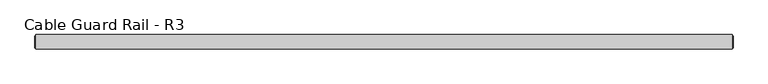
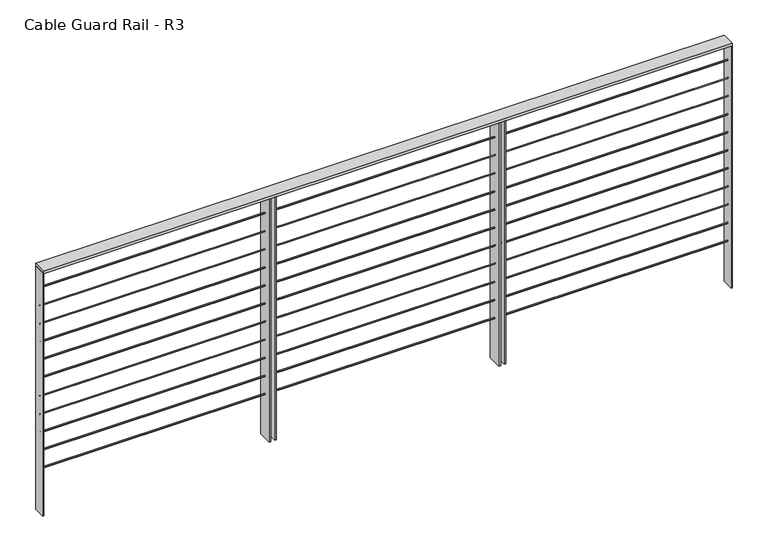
"""IFC4 building model written with IfcOpenShell, lengths in millimetres: railing geometry, Cable Guard Rail - R3."""

from ifc_helpers import new_model, si_unit, point, frame, frame_2d, origin, place, context, project, spatial, polyline, circle_curve, trimmed, segment, composite_curve, outline, extrude, source, transform, mapped, element, save


def cable_guard_rail_r3_ffb90caa(model_context):
    return source(origin(), model_context, "Body", "SweptSolid", [
        extrude(outline(polyline([(25549.2728313, 230511.1703252), (25549.2728313, 230587.3703252), (29206.8728313, 230587.3703252), (29206.8728313, 230511.1703252), (25549.2728313, 230511.1703252)])), frame((0.0, 0.0, 293590.1333333), z_axis=(0.0, 0.0, 1.0), x_axis=(1.0, 0.0, 0.0)), (0.0, 0.0, 1.0), 12.7),
        extrude(outline(composite_curve([segment(trimmed(circle_curve(frame_2d((230549.2703252, 293488.5333333)), 3.175), [point((230546.0953252, 293488.5333333))], [point((230552.4453252, 293488.5333333))], False, "CARTESIAN"), True, "CONTINUOUS"), segment(trimmed(circle_curve(frame_2d((230549.2703252, 293488.5333333)), 3.175), [point((230552.4453252, 293488.5333333))], [point((230546.0953252, 293488.5333333))], False, "CARTESIAN"), True, "CONTINUOUS")], self_intersect=False)), frame((25549.2728313, 0.0, 0.0), z_axis=(1.0, 0.0, 0.0), x_axis=(0.0, 1.0, 0.0)), (0.0, 0.0, 1.0), 3657.6),
        extrude(outline(composite_curve([segment(trimmed(circle_curve(frame_2d((230549.2703252, 293386.9333333)), 3.175), [point((230546.0953252, 293386.9333333))], [point((230552.4453252, 293386.9333333))], False, "CARTESIAN"), True, "CONTINUOUS"), segment(trimmed(circle_curve(frame_2d((230549.2703252, 293386.9333333)), 3.175), [point((230552.4453252, 293386.9333333))], [point((230546.0953252, 293386.9333333))], False, "CARTESIAN"), True, "CONTINUOUS")], self_intersect=False)), frame((25549.2728313, 0.0, 0.0), z_axis=(1.0, 0.0, 0.0), x_axis=(0.0, 1.0, 0.0)), (0.0, 0.0, 1.0), 3657.6),
        extrude(outline(composite_curve([segment(trimmed(circle_curve(frame_2d((230549.2703252, 293285.3333333)), 3.175), [point((230546.0953252, 293285.3333333))], [point((230552.4453252, 293285.3333333))], False, "CARTESIAN"), True, "CONTINUOUS"), segment(trimmed(circle_curve(frame_2d((230549.2703252, 293285.3333333)), 3.175), [point((230552.4453252, 293285.3333333))], [point((230546.0953252, 293285.3333333))], False, "CARTESIAN"), True, "CONTINUOUS")], self_intersect=False)), frame((25549.2728313, 0.0, 0.0), z_axis=(1.0, 0.0, 0.0), x_axis=(0.0, 1.0, 0.0)), (0.0, 0.0, 1.0), 3657.6),
        extrude(outline(composite_curve([segment(trimmed(circle_curve(frame_2d((230549.2703252, 293183.7333333)), 3.175), [point((230546.0953252, 293183.7333333))], [point((230552.4453252, 293183.7333333))], False, "CARTESIAN"), True, "CONTINUOUS"), segment(trimmed(circle_curve(frame_2d((230549.2703252, 293183.7333333)), 3.175), [point((230552.4453252, 293183.7333333))], [point((230546.0953252, 293183.7333333))], False, "CARTESIAN"), True, "CONTINUOUS")], self_intersect=False)), frame((25549.2728313, 0.0, 0.0), z_axis=(1.0, 0.0, 0.0), x_axis=(0.0, 1.0, 0.0)), (0.0, 0.0, 1.0), 3657.6),
        extrude(outline(composite_curve([segment(trimmed(circle_curve(frame_2d((230549.2703252, 293082.1333333)), 3.175), [point((230546.0953252, 293082.1333333))], [point((230552.4453252, 293082.1333333))], False, "CARTESIAN"), True, "CONTINUOUS"), segment(trimmed(circle_curve(frame_2d((230549.2703252, 293082.1333333)), 3.175), [point((230552.4453252, 293082.1333333))], [point((230546.0953252, 293082.1333333))], False, "CARTESIAN"), True, "CONTINUOUS")], self_intersect=False)), frame((25549.2728313, 0.0, 0.0), z_axis=(1.0, 0.0, 0.0), x_axis=(0.0, 1.0, 0.0)), (0.0, 0.0, 1.0), 3657.6),
        extrude(outline(composite_curve([segment(trimmed(circle_curve(frame_2d((230549.2703252, 292980.5333333)), 3.175), [point((230546.0953252, 292980.5333333))], [point((230552.4453252, 292980.5333333))], False, "CARTESIAN"), True, "CONTINUOUS"), segment(trimmed(circle_curve(frame_2d((230549.2703252, 292980.5333333)), 3.175), [point((230552.4453252, 292980.5333333))], [point((230546.0953252, 292980.5333333))], False, "CARTESIAN"), True, "CONTINUOUS")], self_intersect=False)), frame((25549.2728313, 0.0, 0.0), z_axis=(1.0, 0.0, 0.0), x_axis=(0.0, 1.0, 0.0)), (0.0, 0.0, 1.0), 3657.6),
        extrude(outline(composite_curve([segment(trimmed(circle_curve(frame_2d((230549.2703252, 292878.9333333)), 3.175), [point((230546.0953252, 292878.9333333))], [point((230552.4453252, 292878.9333333))], False, "CARTESIAN"), True, "CONTINUOUS"), segment(trimmed(circle_curve(frame_2d((230549.2703252, 292878.9333333)), 3.175), [point((230552.4453252, 292878.9333333))], [point((230546.0953252, 292878.9333333))], False, "CARTESIAN"), True, "CONTINUOUS")], self_intersect=False)), frame((25549.2728313, 0.0, 0.0), z_axis=(1.0, 0.0, 0.0), x_axis=(0.0, 1.0, 0.0)), (0.0, 0.0, 1.0), 3657.6),
        extrude(outline(composite_curve([segment(trimmed(circle_curve(frame_2d((230549.2703252, 292777.3333333)), 3.175), [point((230546.0953252, 292777.3333333))], [point((230552.4453252, 292777.3333333))], False, "CARTESIAN"), True, "CONTINUOUS"), segment(trimmed(circle_curve(frame_2d((230549.2703252, 292777.3333333)), 3.175), [point((230552.4453252, 292777.3333333))], [point((230546.0953252, 292777.3333333))], False, "CARTESIAN"), True, "CONTINUOUS")], self_intersect=False)), frame((25549.2728313, 0.0, 0.0), z_axis=(1.0, 0.0, 0.0), x_axis=(0.0, 1.0, 0.0)), (0.0, 0.0, 1.0), 3657.6),
        extrude(outline(composite_curve([segment(trimmed(circle_curve(frame_2d((230549.2703252, 292675.7333333)), 3.175), [point((230546.0953252, 292675.7333333))], [point((230552.4453252, 292675.7333333))], False, "CARTESIAN"), True, "CONTINUOUS"), segment(trimmed(circle_curve(frame_2d((230549.2703252, 292675.7333333)), 3.175), [point((230552.4453252, 292675.7333333))], [point((230546.0953252, 292675.7333333))], False, "CARTESIAN"), True, "CONTINUOUS")], self_intersect=False)), frame((25549.2728313, 0.0, 0.0), z_axis=(1.0, 0.0, 0.0), x_axis=(0.0, 1.0, 0.0)), (0.0, 0.0, 1.0), 3657.6),
        extrude(outline(composite_curve([segment(trimmed(circle_curve(frame_2d((230549.2703252, 292574.1333333)), 3.175), [point((230546.0953252, 292574.1333333))], [point((230552.4453252, 292574.1333333))], False, "CARTESIAN"), True, "CONTINUOUS"), segment(trimmed(circle_curve(frame_2d((230549.2703252, 292574.1333333)), 3.175), [point((230552.4453252, 292574.1333333))], [point((230546.0953252, 292574.1333333))], False, "CARTESIAN"), True, "CONTINUOUS")], self_intersect=False)), frame((25549.2728313, 0.0, 0.0), z_axis=(1.0, 0.0, 0.0), x_axis=(0.0, 1.0, 0.0)), (0.0, 0.0, 1.0), 3657.6),
        extrude(outline(composite_curve([segment(trimmed(circle_curve(frame_2d((230549.2703252, 292472.5333333)), 3.175), [point((230546.0953252, 292472.5333333))], [point((230552.4453252, 292472.5333333))], False, "CARTESIAN"), True, "CONTINUOUS"), segment(trimmed(circle_curve(frame_2d((230549.2703252, 292472.5333333)), 3.175), [point((230552.4453252, 292472.5333333))], [point((230546.0953252, 292472.5333333))], False, "CARTESIAN"), True, "CONTINUOUS")], self_intersect=False)), frame((25549.2728313, 0.0, 0.0), z_axis=(1.0, 0.0, 0.0), x_axis=(0.0, 1.0, 0.0)), (0.0, 0.0, 1.0), 3657.6),
        extrude(outline(polyline([(27965.4478313, 230511.1703252), (27965.4478313, 230587.3703252), (27974.9728313, 230587.3703252), (27974.9728313, 230511.1703252), (27965.4478313, 230511.1703252)])), frame((0.0, 0.0, 292224.8833333), z_axis=(0.0, 0.0, 1.0), x_axis=(1.0, 0.0, 0.0)), (0.0, 0.0, 1.0), 1365.25),
        extrude(outline(polyline([(27994.0228313, 230511.1703252), (27994.0228313, 230587.3703252), (28003.4995959, 230587.3703252), (28003.4995959, 230511.1703252), (27994.0228313, 230511.1703252)])), frame((0.0, 0.0, 292224.8833333), z_axis=(0.0, 0.0, 1.0), x_axis=(1.0, 0.0, 0.0)), (0.0, 0.0, 1.0), 1365.25),
        extrude(outline(polyline([(26746.2478313, 230511.1703252), (26746.2478313, 230587.3703252), (26755.7728313, 230587.3703252), (26755.7728313, 230511.1703252), (26746.2478313, 230511.1703252)])), frame((0.0, 0.0, 292224.8833333), z_axis=(0.0, 0.0, 1.0), x_axis=(1.0, 0.0, 0.0)), (0.0, 0.0, 1.0), 1365.25),
        extrude(outline(polyline([(26774.8228313, 230511.1703252), (26774.8228313, 230587.3703252), (26784.2995959, 230587.3703252), (26784.2995959, 230511.1703252), (26774.8228313, 230511.1703252)])), frame((0.0, 0.0, 292224.8833333), z_axis=(0.0, 0.0, 1.0), x_axis=(1.0, 0.0, 0.0)), (0.0, 0.0, 1.0), 1365.25),
        extrude(outline(polyline([(29203.6978313, 230517.5203252), (29203.6978313, 230581.0203252), (29210.0478313, 230581.0203252), (29210.0478313, 230517.5203252), (29203.6978313, 230517.5203252)])), frame((0.0, 0.0, 292224.8833333), z_axis=(0.0, 0.0, 1.0), x_axis=(1.0, 0.0, 0.0)), (0.0, 0.0, 1.0), 1365.25),
        extrude(outline(polyline([(25546.0978313, 230517.5203252), (25546.0978313, 230581.0203252), (25552.4478313, 230581.0203252), (25552.4478313, 230517.5203252), (25546.0978313, 230517.5203252)])), frame((0.0, 0.0, 292224.8833333), z_axis=(0.0, 0.0, 1.0), x_axis=(1.0, 0.0, 0.0)), (0.0, 0.0, 1.0), 1365.25),
    ])


if __name__ == "__main__":
    model = new_model("IFC4")
    model_context = context("Model", 3, world=origin())
    ifc_project = project(units=[si_unit("LENGTHUNIT", "METRE", prefix="MILLI")], contexts=[model_context])
    site = spatial("IfcSite", under=ifc_project)
    building = spatial("IfcBuilding", under=site)
    placement = place(None, origin())
    cable_guard_rail_r3_shape = cable_guard_rail_r3_ffb90caa(model_context)
    element("IfcRailing", 1, ObjectType="Cable Guard Rail - R3", at=placement, inside=building, context=model_context, shape_type="MappedRepresentation", body=[
        mapped(cable_guard_rail_r3_shape, transform((0.0, 0.0, 0.0), x_axis=(1.0, 0.0, 0.0), y_axis=(0.0, 1.0, 0.0), z_axis=(0.0, 0.0, 1.0))),
    ])
    save(model, "model.ifc")
